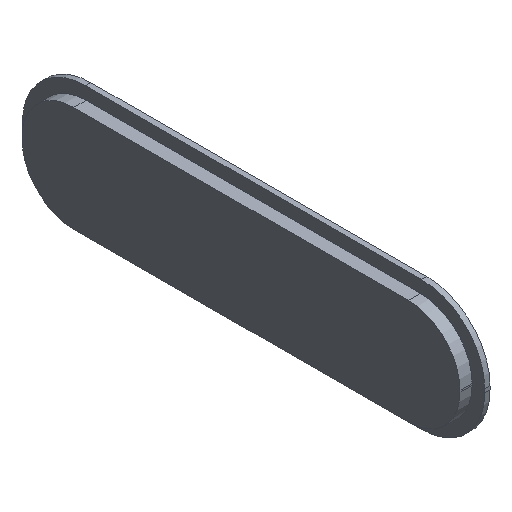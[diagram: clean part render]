
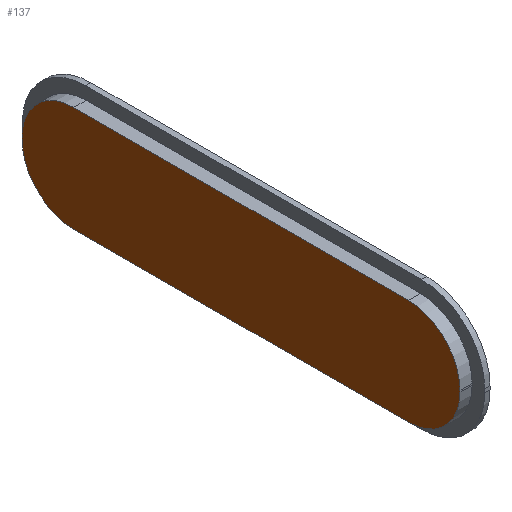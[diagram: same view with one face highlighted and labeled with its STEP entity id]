
A CAD part, isometric view. The second image highlights one B-rep face of the part: STEP entity #137.
In plain terms, the highlighted planar face has unit normal (-1, 0, 0).
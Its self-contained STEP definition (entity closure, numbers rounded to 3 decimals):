
#21 = EDGE_CURVE('',#22,#24,#26,.T.);
#22 = VERTEX_POINT('',#23);
#23 = CARTESIAN_POINT('',(-43.2,-13.6,6.5));
#24 = VERTEX_POINT('',#25);
#25 = CARTESIAN_POINT('',(-43.2,27.6,6.5));
#26 = SURFACE_CURVE('',#27,(#31,#43),.PCURVE_S1.);
#27 = LINE('',#28,#29);
#28 = CARTESIAN_POINT('',(-43.2,-20.,6.5));
#29 = VECTOR('',#30,1.);
#30 = DIRECTION('',(0.,1.,0.));
#31 = PCURVE('',#32,#37);
#32 = PLANE('',#33);
#33 = AXIS2_PLACEMENT_3D('',#34,#35,#36);
#34 = CARTESIAN_POINT('',(-41.7,-20.,6.5));
#35 = DIRECTION('',(0.,-0.,-1.));
#36 = DIRECTION('',(1.,0.,0.));
#37 = DEFINITIONAL_REPRESENTATION('',(#38),#42);
#38 = LINE('',#39,#40);
#39 = CARTESIAN_POINT('',(-1.5,0.));
#40 = VECTOR('',#41,1.);
#41 = DIRECTION('',(0.,-1.));
#42 = ( GEOMETRIC_REPRESENTATION_CONTEXT(2) 
PARAMETRIC_REPRESENTATION_CONTEXT() REPRESENTATION_CONTEXT('2D SPACE',''
  ) );
#43 = PCURVE('',#44,#49);
#44 = PLANE('',#45);
#45 = AXIS2_PLACEMENT_3D('',#46,#47,#48);
#46 = CARTESIAN_POINT('',(-43.2,-20.,6.5));
#47 = DIRECTION('',(-1.,0.,0.));
#48 = DIRECTION('',(0.,0.,1.));
#49 = DEFINITIONAL_REPRESENTATION('',(#50),#54);
#50 = LINE('',#51,#52);
#51 = CARTESIAN_POINT('',(0.,0.));
#52 = VECTOR('',#53,1.);
#53 = DIRECTION('',(0.,1.));
#54 = ( GEOMETRIC_REPRESENTATION_CONTEXT(2) 
PARAMETRIC_REPRESENTATION_CONTEXT() REPRESENTATION_CONTEXT('2D SPACE',''
  ) );
#72 = CYLINDRICAL_SURFACE('',#73,6.4);
#73 = AXIS2_PLACEMENT_3D('',#74,#75,#76);
#74 = CARTESIAN_POINT('',(-41.7,-13.6,0.1));
#75 = DIRECTION('',(-1.,-0.,0.));
#76 = DIRECTION('',(0.,0.,1.));
#126 = CYLINDRICAL_SURFACE('',#127,6.4);
#127 = AXIS2_PLACEMENT_3D('',#128,#129,#130);
#128 = CARTESIAN_POINT('',(-41.7,27.6,0.1));
#129 = DIRECTION('',(-1.,-0.,0.));
#130 = DIRECTION('',(0.,0.,1.));
#137 = ADVANCED_FACE('',(#138),#44,.T.);
#138 = FACE_BOUND('',#139,.F.);
#139 = EDGE_LOOP('',(#140,#141,#169,#197,#226,#254,#287,#315));
#140 = ORIENTED_EDGE('',*,*,#21,.F.);
#141 = ORIENTED_EDGE('',*,*,#142,.T.);
#142 = EDGE_CURVE('',#22,#143,#145,.T.);
#143 = VERTEX_POINT('',#144);
#144 = CARTESIAN_POINT('',(-43.2,-20.,0.1));
#145 = SURFACE_CURVE('',#146,(#151,#162),.PCURVE_S1.);
#146 = CIRCLE('',#147,6.4);
#147 = AXIS2_PLACEMENT_3D('',#148,#149,#150);
#148 = CARTESIAN_POINT('',(-43.2,-13.6,0.1));
#149 = DIRECTION('',(1.,0.,0.));
#150 = DIRECTION('',(0.,-1.,0.));
#151 = PCURVE('',#44,#152);
#152 = DEFINITIONAL_REPRESENTATION('',(#153),#161);
#153 = ( BOUNDED_CURVE() B_SPLINE_CURVE(2,(#154,#155,#156,#157,#158,#159
,#160),.UNSPECIFIED.,.T.,.F.) B_SPLINE_CURVE_WITH_KNOTS((1,2,2,2,2,1),(
    -2.094,0.,2.094,4.189,6.283,
8.378),.UNSPECIFIED.) CURVE() GEOMETRIC_REPRESENTATION_ITEM() 
RATIONAL_B_SPLINE_CURVE((1.,0.5,1.,0.5,1.,0.5,1.)) REPRESENTATION_ITEM(
  '') );
#154 = CARTESIAN_POINT('',(-6.4,0.));
#155 = CARTESIAN_POINT('',(-17.485,0.));
#156 = CARTESIAN_POINT('',(-11.943,9.6));
#157 = CARTESIAN_POINT('',(-6.4,19.2));
#158 = CARTESIAN_POINT('',(-0.857,9.6));
#159 = CARTESIAN_POINT('',(4.685,0.));
#160 = CARTESIAN_POINT('',(-6.4,0.));
#161 = ( GEOMETRIC_REPRESENTATION_CONTEXT(2) 
PARAMETRIC_REPRESENTATION_CONTEXT() REPRESENTATION_CONTEXT('2D SPACE',''
  ) );
#162 = PCURVE('',#72,#163);
#163 = DEFINITIONAL_REPRESENTATION('',(#164),#168);
#164 = LINE('',#165,#166);
#165 = CARTESIAN_POINT('',(10.996,1.5));
#166 = VECTOR('',#167,1.);
#167 = DIRECTION('',(-1.,0.));
#168 = ( GEOMETRIC_REPRESENTATION_CONTEXT(2) 
PARAMETRIC_REPRESENTATION_CONTEXT() REPRESENTATION_CONTEXT('2D SPACE',''
  ) );
#169 = ORIENTED_EDGE('',*,*,#170,.T.);
#170 = EDGE_CURVE('',#143,#171,#173,.T.);
#171 = VERTEX_POINT('',#172);
#172 = CARTESIAN_POINT('',(-43.2,-20.,-0.1));
#173 = SURFACE_CURVE('',#174,(#178,#185),.PCURVE_S1.);
#174 = LINE('',#175,#176);
#175 = CARTESIAN_POINT('',(-43.2,-20.,6.5));
#176 = VECTOR('',#177,1.);
#177 = DIRECTION('',(0.,-0.,-1.));
#178 = PCURVE('',#44,#179);
#179 = DEFINITIONAL_REPRESENTATION('',(#180),#184);
#180 = LINE('',#181,#182);
#181 = CARTESIAN_POINT('',(0.,0.));
#182 = VECTOR('',#183,1.);
#183 = DIRECTION('',(-1.,0.));
#184 = ( GEOMETRIC_REPRESENTATION_CONTEXT(2) 
PARAMETRIC_REPRESENTATION_CONTEXT() REPRESENTATION_CONTEXT('2D SPACE',''
  ) );
#185 = PCURVE('',#186,#191);
#186 = PLANE('',#187);
#187 = AXIS2_PLACEMENT_3D('',#188,#189,#190);
#188 = CARTESIAN_POINT('',(-41.7,-20.,6.5));
#189 = DIRECTION('',(0.,1.,0.));
#190 = DIRECTION('',(1.,0.,0.));
#191 = DEFINITIONAL_REPRESENTATION('',(#192),#196);
#192 = LINE('',#193,#194);
#193 = CARTESIAN_POINT('',(-1.5,0.));
#194 = VECTOR('',#195,1.);
#195 = DIRECTION('',(0.,1.));
#196 = ( GEOMETRIC_REPRESENTATION_CONTEXT(2) 
PARAMETRIC_REPRESENTATION_CONTEXT() REPRESENTATION_CONTEXT('2D SPACE',''
  ) );
#197 = ORIENTED_EDGE('',*,*,#198,.F.);
#198 = EDGE_CURVE('',#199,#171,#201,.T.);
#199 = VERTEX_POINT('',#200);
#200 = CARTESIAN_POINT('',(-43.2,-13.6,-6.5));
#201 = SURFACE_CURVE('',#202,(#207,#214),.PCURVE_S1.);
#202 = CIRCLE('',#203,6.4);
#203 = AXIS2_PLACEMENT_3D('',#204,#205,#206);
#204 = CARTESIAN_POINT('',(-43.2,-13.6,-0.1));
#205 = DIRECTION('',(-1.,0.,0.));
#206 = DIRECTION('',(-0.,-1.,0.));
#207 = PCURVE('',#44,#208);
#208 = DEFINITIONAL_REPRESENTATION('',(#209),#213);
#209 = CIRCLE('',#210,6.4);
#210 = AXIS2_PLACEMENT_2D('',#211,#212);
#211 = CARTESIAN_POINT('',(-6.6,6.4));
#212 = DIRECTION('',(0.,-1.));
#213 = ( GEOMETRIC_REPRESENTATION_CONTEXT(2) 
PARAMETRIC_REPRESENTATION_CONTEXT() REPRESENTATION_CONTEXT('2D SPACE',''
  ) );
#214 = PCURVE('',#215,#220);
#215 = CYLINDRICAL_SURFACE('',#216,6.4);
#216 = AXIS2_PLACEMENT_3D('',#217,#218,#219);
#217 = CARTESIAN_POINT('',(-41.7,-13.6,-0.1));
#218 = DIRECTION('',(-1.,-0.,0.));
#219 = DIRECTION('',(0.,0.,-1.));
#220 = DEFINITIONAL_REPRESENTATION('',(#221),#225);
#221 = LINE('',#222,#223);
#222 = CARTESIAN_POINT('',(-4.712,1.5));
#223 = VECTOR('',#224,1.);
#224 = DIRECTION('',(1.,0.));
#225 = ( GEOMETRIC_REPRESENTATION_CONTEXT(2) 
PARAMETRIC_REPRESENTATION_CONTEXT() REPRESENTATION_CONTEXT('2D SPACE',''
  ) );
#226 = ORIENTED_EDGE('',*,*,#227,.T.);
#227 = EDGE_CURVE('',#199,#228,#230,.T.);
#228 = VERTEX_POINT('',#229);
#229 = CARTESIAN_POINT('',(-43.2,27.6,-6.5));
#230 = SURFACE_CURVE('',#231,(#235,#242),.PCURVE_S1.);
#231 = LINE('',#232,#233);
#232 = CARTESIAN_POINT('',(-43.2,-20.,-6.5));
#233 = VECTOR('',#234,1.);
#234 = DIRECTION('',(0.,1.,0.));
#235 = PCURVE('',#44,#236);
#236 = DEFINITIONAL_REPRESENTATION('',(#237),#241);
#237 = LINE('',#238,#239);
#238 = CARTESIAN_POINT('',(-13.,0.));
#239 = VECTOR('',#240,1.);
#240 = DIRECTION('',(0.,1.));
#241 = ( GEOMETRIC_REPRESENTATION_CONTEXT(2) 
PARAMETRIC_REPRESENTATION_CONTEXT() REPRESENTATION_CONTEXT('2D SPACE',''
  ) );
#242 = PCURVE('',#243,#248);
#243 = PLANE('',#244);
#244 = AXIS2_PLACEMENT_3D('',#245,#246,#247);
#245 = CARTESIAN_POINT('',(-41.7,-20.,-6.5));
#246 = DIRECTION('',(0.,-0.,-1.));
#247 = DIRECTION('',(1.,0.,0.));
#248 = DEFINITIONAL_REPRESENTATION('',(#249),#253);
#249 = LINE('',#250,#251);
#250 = CARTESIAN_POINT('',(-1.5,0.));
#251 = VECTOR('',#252,1.);
#252 = DIRECTION('',(0.,-1.));
#253 = ( GEOMETRIC_REPRESENTATION_CONTEXT(2) 
PARAMETRIC_REPRESENTATION_CONTEXT() REPRESENTATION_CONTEXT('2D SPACE',''
  ) );
#254 = ORIENTED_EDGE('',*,*,#255,.T.);
#255 = EDGE_CURVE('',#228,#256,#258,.T.);
#256 = VERTEX_POINT('',#257);
#257 = CARTESIAN_POINT('',(-43.2,34.,-0.1));
#258 = SURFACE_CURVE('',#259,(#264,#275),.PCURVE_S1.);
#259 = CIRCLE('',#260,6.4);
#260 = AXIS2_PLACEMENT_3D('',#261,#262,#263);
#261 = CARTESIAN_POINT('',(-43.2,27.6,-0.1));
#262 = DIRECTION('',(1.,0.,0.));
#263 = DIRECTION('',(0.,-1.,0.));
#264 = PCURVE('',#44,#265);
#265 = DEFINITIONAL_REPRESENTATION('',(#266),#274);
#266 = ( BOUNDED_CURVE() B_SPLINE_CURVE(2,(#267,#268,#269,#270,#271,#272
,#273),.UNSPECIFIED.,.T.,.F.) B_SPLINE_CURVE_WITH_KNOTS((1,2,2,2,2,1),(
    -2.094,0.,2.094,4.189,6.283,
8.378),.UNSPECIFIED.) CURVE() GEOMETRIC_REPRESENTATION_ITEM() 
RATIONAL_B_SPLINE_CURVE((1.,0.5,1.,0.5,1.,0.5,1.)) REPRESENTATION_ITEM(
  '') );
#267 = CARTESIAN_POINT('',(-6.6,41.2));
#268 = CARTESIAN_POINT('',(-17.685,41.2));
#269 = CARTESIAN_POINT('',(-12.143,50.8));
#270 = CARTESIAN_POINT('',(-6.6,60.4));
#271 = CARTESIAN_POINT('',(-1.057,50.8));
#272 = CARTESIAN_POINT('',(4.485,41.2));
#273 = CARTESIAN_POINT('',(-6.6,41.2));
#274 = ( GEOMETRIC_REPRESENTATION_CONTEXT(2) 
PARAMETRIC_REPRESENTATION_CONTEXT() REPRESENTATION_CONTEXT('2D SPACE',''
  ) );
#275 = PCURVE('',#276,#281);
#276 = CYLINDRICAL_SURFACE('',#277,6.4);
#277 = AXIS2_PLACEMENT_3D('',#278,#279,#280);
#278 = CARTESIAN_POINT('',(-41.7,27.6,-0.1));
#279 = DIRECTION('',(-1.,-0.,0.));
#280 = DIRECTION('',(0.,0.,-1.));
#281 = DEFINITIONAL_REPRESENTATION('',(#282),#286);
#282 = LINE('',#283,#284);
#283 = CARTESIAN_POINT('',(7.854,1.5));
#284 = VECTOR('',#285,1.);
#285 = DIRECTION('',(-1.,0.));
#286 = ( GEOMETRIC_REPRESENTATION_CONTEXT(2) 
PARAMETRIC_REPRESENTATION_CONTEXT() REPRESENTATION_CONTEXT('2D SPACE',''
  ) );
#287 = ORIENTED_EDGE('',*,*,#288,.F.);
#288 = EDGE_CURVE('',#289,#256,#291,.T.);
#289 = VERTEX_POINT('',#290);
#290 = CARTESIAN_POINT('',(-43.2,34.,0.1));
#291 = SURFACE_CURVE('',#292,(#296,#303),.PCURVE_S1.);
#292 = LINE('',#293,#294);
#293 = CARTESIAN_POINT('',(-43.2,34.,6.5));
#294 = VECTOR('',#295,1.);
#295 = DIRECTION('',(0.,-0.,-1.));
#296 = PCURVE('',#44,#297);
#297 = DEFINITIONAL_REPRESENTATION('',(#298),#302);
#298 = LINE('',#299,#300);
#299 = CARTESIAN_POINT('',(0.,54.));
#300 = VECTOR('',#301,1.);
#301 = DIRECTION('',(-1.,0.));
#302 = ( GEOMETRIC_REPRESENTATION_CONTEXT(2) 
PARAMETRIC_REPRESENTATION_CONTEXT() REPRESENTATION_CONTEXT('2D SPACE',''
  ) );
#303 = PCURVE('',#304,#309);
#304 = PLANE('',#305);
#305 = AXIS2_PLACEMENT_3D('',#306,#307,#308);
#306 = CARTESIAN_POINT('',(-41.7,34.,6.5));
#307 = DIRECTION('',(0.,1.,0.));
#308 = DIRECTION('',(1.,0.,0.));
#309 = DEFINITIONAL_REPRESENTATION('',(#310),#314);
#310 = LINE('',#311,#312);
#311 = CARTESIAN_POINT('',(-1.5,0.));
#312 = VECTOR('',#313,1.);
#313 = DIRECTION('',(0.,1.));
#314 = ( GEOMETRIC_REPRESENTATION_CONTEXT(2) 
PARAMETRIC_REPRESENTATION_CONTEXT() REPRESENTATION_CONTEXT('2D SPACE',''
  ) );
#315 = ORIENTED_EDGE('',*,*,#316,.F.);
#316 = EDGE_CURVE('',#24,#289,#317,.T.);
#317 = SURFACE_CURVE('',#318,(#323,#330),.PCURVE_S1.);
#318 = CIRCLE('',#319,6.4);
#319 = AXIS2_PLACEMENT_3D('',#320,#321,#322);
#320 = CARTESIAN_POINT('',(-43.2,27.6,0.1));
#321 = DIRECTION('',(-1.,0.,0.));
#322 = DIRECTION('',(-0.,-1.,0.));
#323 = PCURVE('',#44,#324);
#324 = DEFINITIONAL_REPRESENTATION('',(#325),#329);
#325 = CIRCLE('',#326,6.4);
#326 = AXIS2_PLACEMENT_2D('',#327,#328);
#327 = CARTESIAN_POINT('',(-6.4,47.6));
#328 = DIRECTION('',(0.,-1.));
#329 = ( GEOMETRIC_REPRESENTATION_CONTEXT(2) 
PARAMETRIC_REPRESENTATION_CONTEXT() REPRESENTATION_CONTEXT('2D SPACE',''
  ) );
#330 = PCURVE('',#126,#331);
#331 = DEFINITIONAL_REPRESENTATION('',(#332),#336);
#332 = LINE('',#333,#334);
#333 = CARTESIAN_POINT('',(-1.571,1.5));
#334 = VECTOR('',#335,1.);
#335 = DIRECTION('',(1.,0.));
#336 = ( GEOMETRIC_REPRESENTATION_CONTEXT(2) 
PARAMETRIC_REPRESENTATION_CONTEXT() REPRESENTATION_CONTEXT('2D SPACE',''
  ) );
